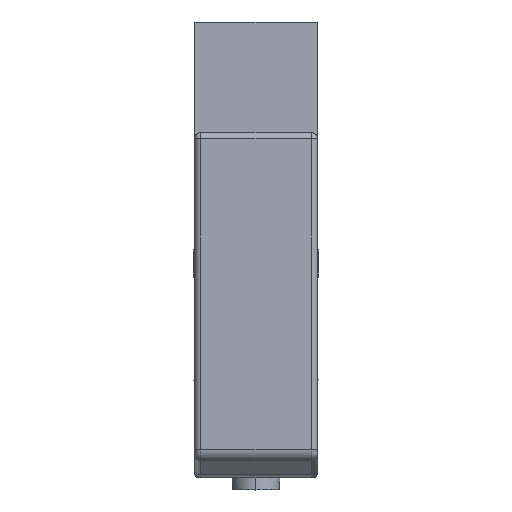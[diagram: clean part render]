
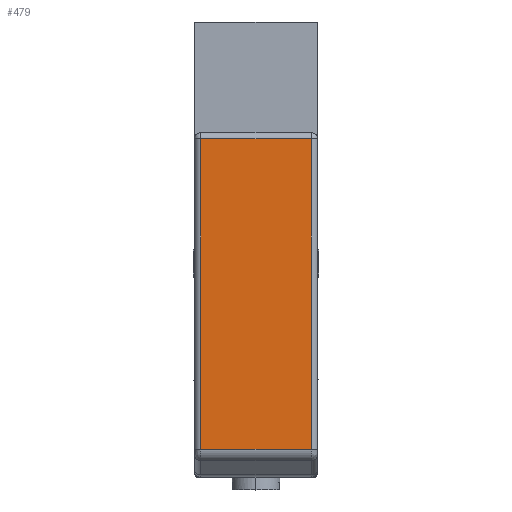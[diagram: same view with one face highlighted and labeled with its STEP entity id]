
A CAD part, top view. The second image highlights one B-rep face of the part: STEP entity #479.
In plain terms, the highlighted planar face has unit normal (0, 0, 1).
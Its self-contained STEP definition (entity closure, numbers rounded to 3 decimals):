
#479=ADVANCED_FACE('',(#2385),#2384,.F.);
#2384=PLANE('',#4258);
#2385=FACE_OUTER_BOUND('',#4259,.T.);
#4255=CARTESIAN_POINT('',(5.4,-27.283,27.4));
#4256=DIRECTION('',(0.,0.,-1.));
#4257=DIRECTION('',(-1.,0.,0.));
#4258=AXIS2_PLACEMENT_3D('',#4255,#4256,#4257);
#4259=EDGE_LOOP('',(#5800,#5801,#5802,#5803));
#5800=ORIENTED_EDGE('',*,*,#6677,.T.);
#5801=ORIENTED_EDGE('',*,*,#6641,.T.);
#5802=ORIENTED_EDGE('',*,*,#6678,.F.);
#5803=ORIENTED_EDGE('',*,*,#6662,.T.);
#6641=EDGE_CURVE('',#9938,#9951,#9958,.T.);
#6662=EDGE_CURVE('',#10069,#10089,#10096,.T.);
#6677=EDGE_CURVE('',#10089,#9938,#10191,.T.);
#6678=EDGE_CURVE('',#10069,#9951,#10197,.T.);
#9938=VERTEX_POINT('',#13115);
#9951=VERTEX_POINT('',#13124);
#9958=LINE('',#13129,#13130);
#10069=VERTEX_POINT('',#13201);
#10089=VERTEX_POINT('',#13215);
#10096=LINE('',#13220,#13221);
#10191=LINE('',#13273,#13274);
#10197=LINE('',#13276,#13277);
#13115=CARTESIAN_POINT('',(-4.5,0.5,27.4));
#13124=CARTESIAN_POINT('',(-4.5,-24.758,27.4));
#13129=CARTESIAN_POINT('',(-4.5,0.5,27.4));
#13130=VECTOR('',#13131,25.258);
#13131=DIRECTION('',(0.,-1.,0.));
#13201=CARTESIAN_POINT('',(4.5,-24.758,27.4));
#13215=CARTESIAN_POINT('',(4.5,0.5,27.4));
#13220=CARTESIAN_POINT('',(4.5,-24.758,27.4));
#13221=VECTOR('',#13222,25.258);
#13222=DIRECTION('',(0.,1.,0.));
#13273=CARTESIAN_POINT('',(4.5,0.5,27.4));
#13274=VECTOR('',#13275,9.);
#13275=DIRECTION('',(-1.,0.,0.));
#13276=CARTESIAN_POINT('',(4.5,-24.758,27.4));
#13277=VECTOR('',#13278,9.);
#13278=DIRECTION('',(-1.,0.,0.));
